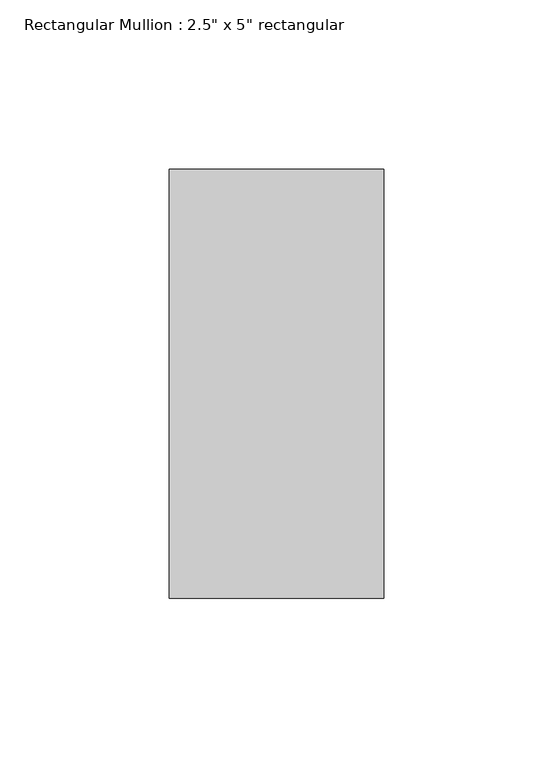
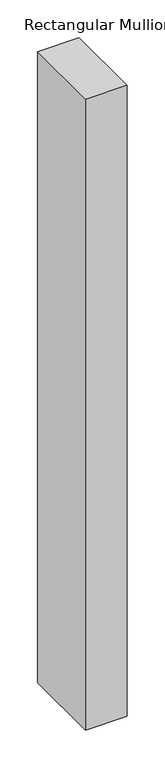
"""IFC4 building model written with IfcOpenShell, lengths in millimetres: member geometry."""

from ifc_helpers import new_model, si_unit, frame, origin, place, context, project, spatial, polyline, outline, extrude, source, transform, mapped, element, save


def member_47abdd99(model_context):
    return source(origin(), model_context, "Body", "SweptSolid", [
        extrude(outline(polyline([(31.75, 63.5), (31.75, -63.5), (-31.75, -63.5), (-31.75, 63.5), (31.75, 63.5)])), frame((0.0, 0.0, -1019.1750002), z_axis=(0.0, 0.0, 1.0), x_axis=(1.0, 0.0, 0.0)), (0.0, 0.0, 1.0), 1019.1750002),
    ])


if __name__ == "__main__":
    model = new_model("IFC4")
    model_context = context("Model", 3, world=origin())
    ifc_project = project(units=[si_unit("LENGTHUNIT", "METRE", prefix="MILLI")], contexts=[model_context])
    site = spatial("IfcSite", under=ifc_project)
    building = spatial("IfcBuilding", under=site)
    placement = place(None, origin())
    member_shape = member_47abdd99(model_context)
    element("IfcMember", 1, ObjectType="Rectangular Mullion : 2.5\" x 5\" rectangular", at=placement, inside=building, context=model_context, shape_type="MappedRepresentation", body=[
        mapped(member_shape, transform((0.0, 0.0, 0.0), x_axis=(1.0, 0.0, 0.0), y_axis=(0.0, 1.0, 0.0), z_axis=(0.0, 0.0, 1.0))),
    ])
    save(model, "model.ifc")
